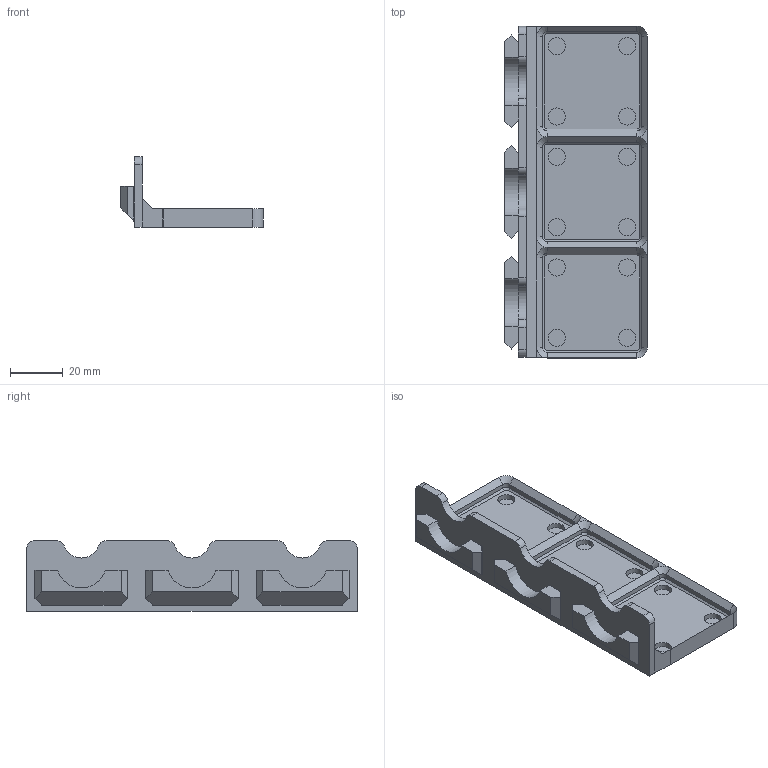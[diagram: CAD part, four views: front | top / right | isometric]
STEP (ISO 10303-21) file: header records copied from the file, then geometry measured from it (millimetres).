
FILE_DESCRIPTION(/* description */ ('','CAx-IF Rec.Pracs.---Representation and Presentation of Product Manufacturing Information (PMI)---4.0---2014-10-13'),/* implementation_level */ '2;1');
FILE_NAME(/* name */ 'Goews Triple Hanger Gridfinity with Magnets 1x3 Base v6.step',/* time_stamp */ '2024-12-07T22:42:53-05:00',/* author */ (''),/* organization */ (''),/* preprocessor_version */ 'ST-DEVELOPER v20',/* originating_system */ 'Autodesk Translation Framework v13.20.0.188',/* authorisation */ '');
FILE_SCHEMA (('AP242_MANAGED_MODEL_BASED_3D_ENGINEERING_MIM_LF { 1 0 10303 442 1 1 4 }'));
Length unit declared in the file: millimetre
Products named in the file (1): Goews Triple Hanger Gridfinity with Magnets  1x3 Base
Bounding box: 54.15 x 126 x 26.72 mm (x, y, z)
Volume: 33444.2 mm3; surface area: 22284.4 mm2
Topology: 1 solids, 1 shells, 182 faces, 405 edges, 240 vertices
Faces by surface type: plane 108, cylinder 50, cone 24
Full cylindrical faces by diameter (mm): 6.5 x12
Entity records: 4956 total; most frequent: DIRECTION 885, CARTESIAN_POINT 828, ORIENTED_EDGE 810, EDGE_CURVE 405, AXIS2_PLACEMENT_3D 297, LINE 291, VECTOR 291, VERTEX_POINT 240
